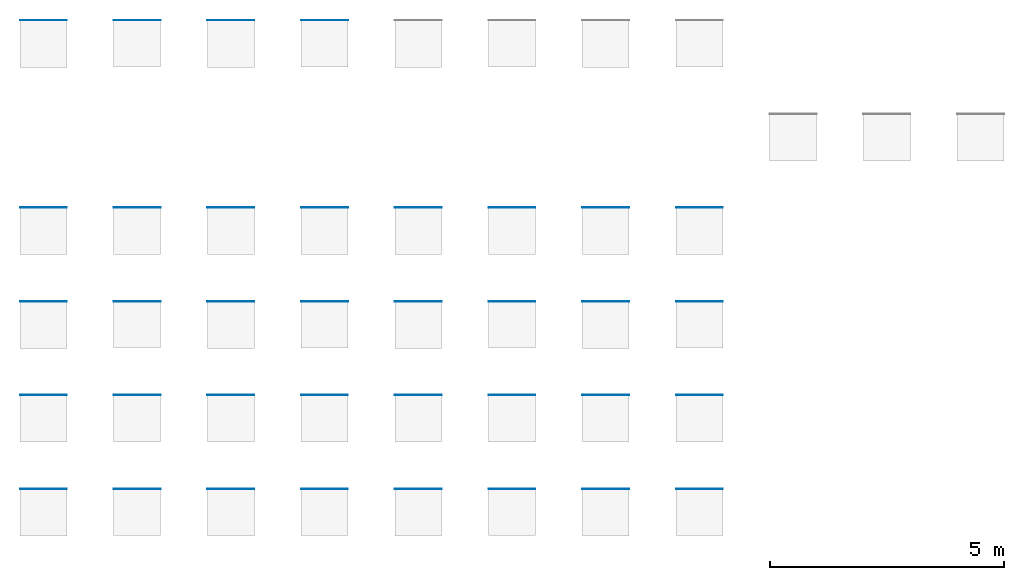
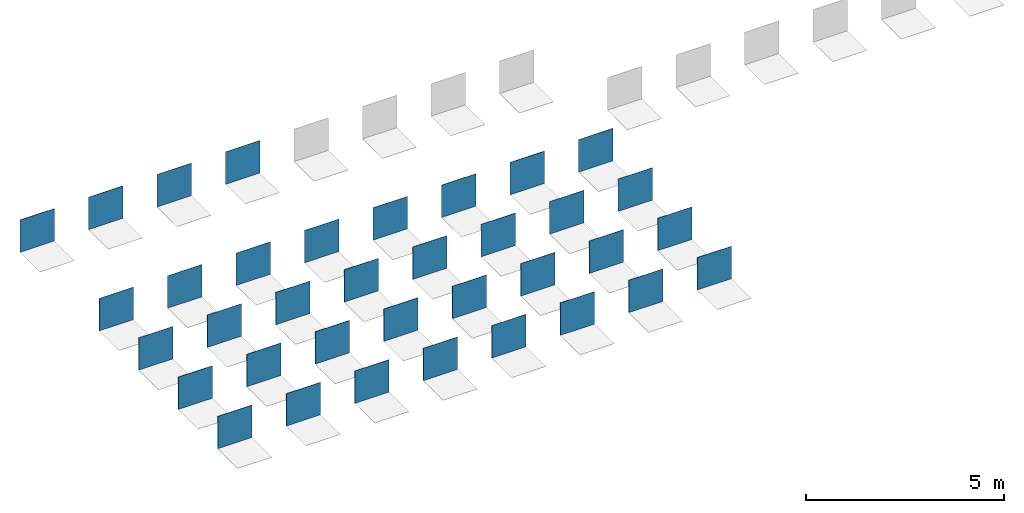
# One storey, part 1 of 4: 36 walls.
"""IFC2X3 building model written with IfcOpenShell, lengths in millimetres."""

from ifc_helpers import new_model, entity, si_unit, converted_unit, derived_unit, direction, frame, frame_2d, origin, place, context, subcontext, project, spatial, rectangle, extrude, material, layer, layer_set, layer_usage, type_object, element, save


model = new_model("IFC2X3")

# Units and contexts
model_context = context("Model", 3, precision=0.01, world=origin(), true_north=direction((6.12303176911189e-17, 1.0)))
body_context = subcontext(model_context, "Body", "Model", "MODEL_VIEW")
ifc_project = project(units=[si_unit("LENGTHUNIT", "METRE", prefix="MILLI"), si_unit("AREAUNIT", "SQUARE_METRE"), si_unit("VOLUMEUNIT", "CUBIC_METRE"), converted_unit("PLANEANGLEUNIT", "DEGREE", entity("IfcRatioMeasure", 0.0174532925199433), si_unit("PLANEANGLEUNIT", "RADIAN"), dimensions=[0, 0, 0, 0, 0, 0, 0]), si_unit("MASSUNIT", "GRAM", prefix="KILO"), derived_unit("MASSDENSITYUNIT", [(si_unit("MASSUNIT", "GRAM", prefix="KILO"), 1), (si_unit("LENGTHUNIT", "METRE"), -3)]), derived_unit("MOMENTOFINERTIAUNIT", [(si_unit("LENGTHUNIT", "METRE"), 4)]), si_unit("TIMEUNIT", "SECOND"), si_unit("FREQUENCYUNIT", "HERTZ"), si_unit("THERMODYNAMICTEMPERATUREUNIT", "DEGREE_CELSIUS"), derived_unit("THERMALTRANSMITTANCEUNIT", [(si_unit("MASSUNIT", "GRAM", prefix="KILO"), 1), (si_unit("THERMODYNAMICTEMPERATUREUNIT", "KELVIN"), -1), (si_unit("TIMEUNIT", "SECOND"), -3)]), derived_unit("VOLUMETRICFLOWRATEUNIT", [(si_unit("LENGTHUNIT", "METRE"), 3), (si_unit("TIMEUNIT", "SECOND"), -1)]), si_unit("ELECTRICCURRENTUNIT", "AMPERE"), si_unit("ELECTRICVOLTAGEUNIT", "VOLT"), si_unit("POWERUNIT", "WATT"), si_unit("FORCEUNIT", "NEWTON", prefix="KILO"), si_unit("ILLUMINANCEUNIT", "LUX"), si_unit("LUMINOUSFLUXUNIT", "LUMEN"), si_unit("LUMINOUSINTENSITYUNIT", "CANDELA"), derived_unit("USERDEFINED", [(si_unit("MASSUNIT", "GRAM", prefix="KILO"), -1), (si_unit("LENGTHUNIT", "METRE"), -2), (si_unit("TIMEUNIT", "SECOND"), 3), (si_unit("LUMINOUSFLUXUNIT", "LUMEN"), 1)]), derived_unit("LINEARVELOCITYUNIT", [(si_unit("LENGTHUNIT", "METRE"), 1), (si_unit("TIMEUNIT", "SECOND"), -1)]), si_unit("PRESSUREUNIT", "PASCAL"), derived_unit("USERDEFINED", [(si_unit("LENGTHUNIT", "METRE"), -2), (si_unit("MASSUNIT", "GRAM", prefix="KILO"), 1), (si_unit("TIMEUNIT", "SECOND"), -2)]), derived_unit("LINEARFORCEUNIT", [(si_unit("MASSUNIT", "GRAM", prefix="KILO"), 1), (si_unit("LENGTHUNIT", "METRE"), 1), (si_unit("TIMEUNIT", "SECOND"), -2), (si_unit("LENGTHUNIT", "METRE"), -1)]), derived_unit("PLANARFORCEUNIT", [(si_unit("MASSUNIT", "GRAM", prefix="KILO"), 1), (si_unit("LENGTHUNIT", "METRE"), 1), (si_unit("TIMEUNIT", "SECOND"), -2), (si_unit("LENGTHUNIT", "METRE"), -2)])], contexts=[model_context])

# Site, building, storey
site_placement = place(None, origin())
site = spatial("IfcSite", under=ifc_project, at=site_placement, Name="Default", CompositionType="ELEMENT")
building_placement = place(site_placement, origin())
building = spatial("IfcBuilding", under=site, at=building_placement, CompositionType="ELEMENT")
storey_placement = place(building_placement, origin())
storey = spatial("IfcBuildingStorey", under=building, at=storey_placement, Name="Level 1", CompositionType="ELEMENT", Elevation=0.0)

# Walls
ifc_material_1 = material(Name="REVIGRÉS-LOCUS-BASE-10X10-SILK-ALLOY")
ifc_layer_1 = layer(ifc_material_1, 8.5)
ifc_layer_set_1 = layer_set([ifc_layer_1], Name="Basic Wall:REVIGRÉS-LOCUS-BASE-9.7x9.7-SILK-ALLOY")
ifc_layer_usage_1 = layer_usage(ifc_layer_set_1, "AXIS2", "NEGATIVE", 4.25)
wall_type_1 = type_object("IfcWallType", Name="Basic Wall:REVIGRÉS-LOCUS-BASE-9.7x9.7-SILK-ALLOY", PredefinedType="STANDARD", material=ifc_layer_set_1)
wall_1_placement = place(storey_placement, frame((1948.64271399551, 3108.07579736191, 0.0)))
element("IfcWallStandardCase", 1, at=wall_1_placement, inside=storey, type_object=wall_type_1, material=ifc_layer_usage_1, Name="Basic Wall:REVIGRÉS-LOCUS-BASE-9.7x9.7-SILK-ALLOY", ObjectType="Basic Wall:REVIGRÉS-LOCUS-BASE-9.7x9.7-SILK-ALLOY", context=body_context, shape_type="SweptSolid", body=[
    extrude(rectangle(XDim=1000.0, YDim=8.50000000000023, at=frame_2d((500.0, 0.0), x_axis=(-1.0, 0.0))), origin(), (0.0, 0.0, 1.0), 1000.0),
])
ifc_material_2 = material(Name="REVIGRÉS-LOCUS-BASE-10X10-SILK-BONE")
ifc_layer_2 = layer(ifc_material_2, 8.5)
ifc_layer_set_2 = layer_set([ifc_layer_2], Name="Basic Wall:REVIGRÉS-LOCUS-BASE-9.7x9.7-SILK-BONE")
ifc_layer_usage_2 = layer_usage(ifc_layer_set_2, "AXIS2", "NEGATIVE", 4.25)
wall_type_2 = type_object("IfcWallType", Name="Basic Wall:REVIGRÉS-LOCUS-BASE-9.7x9.7-SILK-BONE", PredefinedType="STANDARD", material=ifc_layer_set_2)
wall_2_placement = place(storey_placement, frame((5948.64271399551, 3108.0757973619, 0.0)))
element("IfcWallStandardCase", 2, at=wall_2_placement, inside=storey, type_object=wall_type_2, material=ifc_layer_usage_2, Name="Basic Wall:REVIGRÉS-LOCUS-BASE-9.7x9.7-SILK-BONE", ObjectType="Basic Wall:REVIGRÉS-LOCUS-BASE-9.7x9.7-SILK-BONE", context=body_context, shape_type="SweptSolid", body=[
    extrude(rectangle(XDim=1000.0, YDim=8.50000000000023, at=frame_2d((500.0, 0.0), x_axis=(-1.0, 0.0))), origin(), (0.0, 0.0, 1.0), 1000.0),
])
ifc_material_3 = material(Name="REVIGRÉS-LOCUS-BASE-10X10-SOFT GRIP-ALLOY")
ifc_layer_3 = layer(ifc_material_3, 8.5)
ifc_layer_set_3 = layer_set([ifc_layer_3], Name="Basic Wall:REVIGRÉS-LOCUS-BASE-9.7x9.7-SOFT GRIP-ALLOY")
ifc_layer_usage_3 = layer_usage(ifc_layer_set_3, "AXIS2", "NEGATIVE", 4.25)
wall_type_3 = type_object("IfcWallType", Name="Basic Wall:REVIGRÉS-LOCUS-BASE-9.7x9.7-SOFT GRIP-ALLOY", PredefinedType="STANDARD", material=ifc_layer_set_3)
wall_3_placement = place(storey_placement, frame((3948.64271399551, 3108.0757973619, 0.0)))
element("IfcWallStandardCase", 3, at=wall_3_placement, inside=storey, type_object=wall_type_3, material=ifc_layer_usage_3, Name="Basic Wall:REVIGRÉS-LOCUS-BASE-9.7x9.7-SOFT GRIP-ALLOY", ObjectType="Basic Wall:REVIGRÉS-LOCUS-BASE-9.7x9.7-SOFT GRIP-ALLOY", context=body_context, shape_type="SweptSolid", body=[
    extrude(rectangle(XDim=1000.0, YDim=8.50000000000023, at=frame_2d((500.0, 0.0), x_axis=(-1.0, 0.0))), origin(), (0.0, 0.0, 1.0), 1000.0),
])
ifc_material_4 = material(Name="REVIGRÉS-LOCUS-BASE-10X10-SOFT GRIP-BONE")
ifc_layer_4 = layer(ifc_material_4, 8.5)
ifc_layer_set_4 = layer_set([ifc_layer_4], Name="Basic Wall:REVIGRÉS-LOCUS-BASE-9.7x9.7-SOFT GRIP-BONE")
ifc_layer_usage_4 = layer_usage(ifc_layer_set_4, "AXIS2", "NEGATIVE", 4.25)
wall_type_4 = type_object("IfcWallType", Name="Basic Wall:REVIGRÉS-LOCUS-BASE-9.7x9.7-SOFT GRIP-BONE", PredefinedType="STANDARD", material=ifc_layer_set_4)
wall_4_placement = place(storey_placement, frame((7948.64271399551, 3108.07579736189, 0.0)))
element("IfcWallStandardCase", 4, at=wall_4_placement, inside=storey, type_object=wall_type_4, material=ifc_layer_usage_4, Name="Basic Wall:REVIGRÉS-LOCUS-BASE-9.7x9.7-SOFT GRIP-BONE", ObjectType="Basic Wall:REVIGRÉS-LOCUS-BASE-9.7x9.7-SOFT GRIP-BONE", context=body_context, shape_type="SweptSolid", body=[
    extrude(rectangle(XDim=1000.0, YDim=8.50000000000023, at=frame_2d((500.0, 0.0), x_axis=(-1.0, 0.0))), origin(), (0.0, 0.0, 1.0), 1000.0),
])
ifc_material_5 = material(Name="REVIGRÉS-LOCUS-BASE-30x60-SILK-ALLOY")
ifc_layer_5 = layer(ifc_material_5, 8.5)
ifc_layer_set_5 = layer_set([ifc_layer_5], Name="Basic Wall:REVIGRÉS-LOCUS-BASE-29.5x59.2-SILK-ALLOY")
ifc_layer_usage_5 = layer_usage(ifc_layer_set_5, "AXIS2", "NEGATIVE", 4.25)
wall_type_5 = type_object("IfcWallType", Name="Basic Wall:REVIGRÉS-LOCUS-BASE-29.5x59.2-SILK-ALLOY", PredefinedType="STANDARD", material=ifc_layer_set_5)
wall_5_placement = place(storey_placement, frame((1948.64271399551, -891.924202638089, 0.0)))
element("IfcWallStandardCase", 5, at=wall_5_placement, inside=storey, type_object=wall_type_5, material=ifc_layer_usage_5, Name="Basic Wall:REVIGRÉS-LOCUS-BASE-29.5x59.2-SILK-ALLOY", ObjectType="Basic Wall:REVIGRÉS-LOCUS-BASE-29.5x59.2-SILK-ALLOY", context=body_context, shape_type="SweptSolid", body=[
    extrude(rectangle(XDim=1000.0, YDim=8.49999999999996, at=frame_2d((500.0, 0.0), x_axis=(-1.0, 0.0))), origin(), (0.0, 0.0, 1.0), 1000.0),
])
ifc_material_6 = material(Name="REVIGRÉS-LOCUS-BASE-30x60-SOFT GRIP-ALLOY")
ifc_layer_6 = layer(ifc_material_6, 8.5)
ifc_layer_set_6 = layer_set([ifc_layer_6], Name="Basic Wall:REVIGRÉS-LOCUS-BASE-29.5x59.2-SOFT GRIP-ALLOY")
ifc_layer_usage_6 = layer_usage(ifc_layer_set_6, "AXIS2", "NEGATIVE", 4.25)
wall_type_6 = type_object("IfcWallType", Name="Basic Wall:REVIGRÉS-LOCUS-BASE-29.5x59.2-SOFT GRIP-ALLOY", PredefinedType="STANDARD", material=ifc_layer_set_6)
wall_6_placement = place(storey_placement, frame((3948.64271399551, -891.924202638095, 0.0)))
element("IfcWallStandardCase", 6, at=wall_6_placement, inside=storey, type_object=wall_type_6, material=ifc_layer_usage_6, Name="Basic Wall:REVIGRÉS-LOCUS-BASE-29.5x59.2-SOFT GRIP-ALLOY", ObjectType="Basic Wall:REVIGRÉS-LOCUS-BASE-29.5x59.2-SOFT GRIP-ALLOY", context=body_context, shape_type="SweptSolid", body=[
    extrude(rectangle(XDim=1000.0, YDim=8.49999999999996, at=frame_2d((500.0, 0.0), x_axis=(-1.0, 0.0))), origin(), (0.0, 0.0, 1.0), 1000.0),
])
ifc_material_7 = material(Name="REVIGRÉS-LOCUS-BASE-60x60-SILK-ALLOY")
ifc_layer_7 = layer(ifc_material_7, 8.5)
ifc_layer_set_7 = layer_set([ifc_layer_7], Name="Basic Wall:REVIGRÉS-LOCUS-BASE-59.2x59.2-SILK-ALLOY")
ifc_layer_usage_7 = layer_usage(ifc_layer_set_7, "AXIS2", "NEGATIVE", 4.25)
wall_type_7 = type_object("IfcWallType", Name="Basic Wall:REVIGRÉS-LOCUS-BASE-59.2x59.2-SILK-ALLOY", PredefinedType="STANDARD", material=ifc_layer_set_7)
wall_7_placement = place(storey_placement, frame((1948.6427139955, -2891.92420263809, 0.0)))
element("IfcWallStandardCase", 7, at=wall_7_placement, inside=storey, type_object=wall_type_7, material=ifc_layer_usage_7, Name="Basic Wall:REVIGRÉS-LOCUS-BASE-59.2x59.2-SILK-ALLOY", ObjectType="Basic Wall:REVIGRÉS-LOCUS-BASE-59.2x59.2-SILK-ALLOY", context=body_context, shape_type="SweptSolid", body=[
    extrude(rectangle(XDim=1000.0, YDim=8.50000000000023, at=frame_2d((500.0, 0.0), x_axis=(-1.0, 0.0))), origin(), (0.0, 0.0, 1.0), 1000.0),
])
ifc_material_8 = material(Name="REVIGRÉS-LOCUS-BASE-60x60-SOFT GRIP-ALLOY")
ifc_layer_8 = layer(ifc_material_8, 8.5)
ifc_layer_set_8 = layer_set([ifc_layer_8], Name="Basic Wall:REVIGRÉS-LOCUS-BASE-59.2x59.2-SOFT GRIP-ALLOY")
ifc_layer_usage_8 = layer_usage(ifc_layer_set_8, "AXIS2", "NEGATIVE", 4.25)
wall_type_8 = type_object("IfcWallType", Name="Basic Wall:REVIGRÉS-LOCUS-BASE-59.2x59.2-SOFT GRIP-ALLOY", PredefinedType="STANDARD", material=ifc_layer_set_8)
wall_8_placement = place(storey_placement, frame((3948.6427139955, -2891.9242026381, 0.0)))
element("IfcWallStandardCase", 8, at=wall_8_placement, inside=storey, type_object=wall_type_8, material=ifc_layer_usage_8, Name="Basic Wall:REVIGRÉS-LOCUS-BASE-59.2x59.2-SOFT GRIP-ALLOY", ObjectType="Basic Wall:REVIGRÉS-LOCUS-BASE-59.2x59.2-SOFT GRIP-ALLOY", context=body_context, shape_type="SweptSolid", body=[
    extrude(rectangle(XDim=999.999999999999, YDim=8.50000000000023, at=frame_2d((499.999999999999, 0.0), x_axis=(-1.0, 0.0))), origin(), (0.0, 0.0, 1.0), 1000.0),
])
ifc_material_9 = material(Name="REVIGRÉS-LOCUS-BASE-45X90-SILK-ALLOY")
ifc_layer_9 = layer(ifc_material_9, 10.5)
ifc_layer_set_9 = layer_set([ifc_layer_9], Name="Basic Wall:REVIGRÉS-LOCUS-BASE-44.35x88.9-SILK-ALLOY")
ifc_layer_usage_9 = layer_usage(ifc_layer_set_9, "AXIS2", "NEGATIVE", 5.25)
wall_type_9 = type_object("IfcWallType", Name="Basic Wall:REVIGRÉS-LOCUS-BASE-44.35x88.9-SILK-ALLOY", PredefinedType="STANDARD", material=ifc_layer_set_9)
wall_9_placement = place(storey_placement, frame((1948.6427139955, -4891.92420263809, 0.0)))
element("IfcWallStandardCase", 9, at=wall_9_placement, inside=storey, type_object=wall_type_9, material=ifc_layer_usage_9, Name="Basic Wall:REVIGRÉS-LOCUS-BASE-44.35x88.9-SILK-ALLOY", ObjectType="Basic Wall:REVIGRÉS-LOCUS-BASE-44.35x88.9-SILK-ALLOY", context=body_context, shape_type="SweptSolid", body=[
    extrude(rectangle(XDim=1000.0, YDim=10.4999999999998, at=frame_2d((500.0, 0.0), x_axis=(-1.0, 0.0))), origin(), (0.0, 0.0, 1.0), 1000.0),
])
ifc_material_10 = material(Name="REVIGRÉS-LOCUS-BASE-45X90-SOFT GRIP-ALLOY")
ifc_layer_10 = layer(ifc_material_10, 10.5)
ifc_layer_set_10 = layer_set([ifc_layer_10], Name="Basic Wall:REVIGRÉS-LOCUS-BASE-44.35x88.9-SOFT GRIP-ALLOY")
ifc_layer_usage_10 = layer_usage(ifc_layer_set_10, "AXIS2", "NEGATIVE", 5.25)
wall_type_10 = type_object("IfcWallType", Name="Basic Wall:REVIGRÉS-LOCUS-BASE-44.35x88.9-SOFT GRIP-ALLOY", PredefinedType="STANDARD", material=ifc_layer_set_10)
wall_10_placement = place(storey_placement, frame((3948.6427139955, -4891.9242026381, 0.0)))
element("IfcWallStandardCase", 10, at=wall_10_placement, inside=storey, type_object=wall_type_10, material=ifc_layer_usage_10, Name="Basic Wall:REVIGRÉS-LOCUS-BASE-44.35x88.9-SOFT GRIP-ALLOY", ObjectType="Basic Wall:REVIGRÉS-LOCUS-BASE-44.35x88.9-SOFT GRIP-ALLOY", context=body_context, shape_type="SweptSolid", body=[
    extrude(rectangle(XDim=1000.0, YDim=10.4999999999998, at=frame_2d((500.0, 0.0), x_axis=(-1.0, 0.0))), origin(), (0.0, 0.0, 1.0), 1000.0),
])
ifc_material_11 = material(Name="REVIGRÉS-LOCUS-BASE-30x60-SILK-BONE")
ifc_layer_11 = layer(ifc_material_11, 8.5)
ifc_layer_set_11 = layer_set([ifc_layer_11], Name="Basic Wall:REVIGRÉS-LOCUS-BASE-29.5x59.2-SILK-BONE")
ifc_layer_usage_11 = layer_usage(ifc_layer_set_11, "AXIS2", "NEGATIVE", 4.25)
wall_type_11 = type_object("IfcWallType", Name="Basic Wall:REVIGRÉS-LOCUS-BASE-29.5x59.2-SILK-BONE", PredefinedType="STANDARD", material=ifc_layer_set_11)
wall_11_placement = place(storey_placement, frame((5948.6427139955, -891.924202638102, 0.0)))
element("IfcWallStandardCase", 11, at=wall_11_placement, inside=storey, type_object=wall_type_11, material=ifc_layer_usage_11, Name="Basic Wall:REVIGRÉS-LOCUS-BASE-29.5x59.2-SILK-BONE", ObjectType="Basic Wall:REVIGRÉS-LOCUS-BASE-29.5x59.2-SILK-BONE", context=body_context, shape_type="SweptSolid", body=[
    extrude(rectangle(XDim=1000.0, YDim=8.49999999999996, at=frame_2d((500.0, 0.0), x_axis=(-1.0, 0.0))), origin(), (0.0, 0.0, 1.0), 1000.0),
])
ifc_material_12 = material(Name="REVIGRÉS-LOCUS-BASE-30x60-SOFT GRIP-BONE")
ifc_layer_12 = layer(ifc_material_12, 8.5)
ifc_layer_set_12 = layer_set([ifc_layer_12], Name="Basic Wall:REVIGRÉS-LOCUS-BASE-29.5x59.2-SOFT GRIP-BONE")
ifc_layer_usage_12 = layer_usage(ifc_layer_set_12, "AXIS2", "NEGATIVE", 4.25)
wall_type_12 = type_object("IfcWallType", Name="Basic Wall:REVIGRÉS-LOCUS-BASE-29.5x59.2-SOFT GRIP-BONE", PredefinedType="STANDARD", material=ifc_layer_set_12)
wall_12_placement = place(storey_placement, frame((7948.6427139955, -891.924202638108, 0.0)))
element("IfcWallStandardCase", 12, at=wall_12_placement, inside=storey, type_object=wall_type_12, material=ifc_layer_usage_12, Name="Basic Wall:REVIGRÉS-LOCUS-BASE-29.5x59.2-SOFT GRIP-BONE", ObjectType="Basic Wall:REVIGRÉS-LOCUS-BASE-29.5x59.2-SOFT GRIP-BONE", context=body_context, shape_type="SweptSolid", body=[
    extrude(rectangle(XDim=1000.0, YDim=8.49999999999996, at=frame_2d((500.0, 0.0), x_axis=(-1.0, 0.0))), origin(), (0.0, 0.0, 1.0), 1000.0),
])
ifc_material_13 = material(Name="REVIGRÉS-LOCUS-BASE-60x60-SILK-BONE")
ifc_layer_13 = layer(ifc_material_13, 8.5)
ifc_layer_set_13 = layer_set([ifc_layer_13], Name="Basic Wall:REVIGRÉS-LOCUS-BASE-59.2x59.2-SILK-BONE")
ifc_layer_usage_13 = layer_usage(ifc_layer_set_13, "AXIS2", "NEGATIVE", 4.25)
wall_type_13 = type_object("IfcWallType", Name="Basic Wall:REVIGRÉS-LOCUS-BASE-59.2x59.2-SILK-BONE", PredefinedType="STANDARD", material=ifc_layer_set_13)
wall_13_placement = place(storey_placement, frame((5948.6427139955, -2891.9242026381, 0.0)))
element("IfcWallStandardCase", 13, at=wall_13_placement, inside=storey, type_object=wall_type_13, material=ifc_layer_usage_13, Name="Basic Wall:REVIGRÉS-LOCUS-BASE-59.2x59.2-SILK-BONE", ObjectType="Basic Wall:REVIGRÉS-LOCUS-BASE-59.2x59.2-SILK-BONE", context=body_context, shape_type="SweptSolid", body=[
    extrude(rectangle(XDim=1000.0, YDim=8.50000000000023, at=frame_2d((500.0, 0.0), x_axis=(-1.0, 0.0))), origin(), (0.0, 0.0, 1.0), 1000.0),
])
ifc_material_14 = material(Name="REVIGRÉS-LOCUS-BASE-60x60-SOFT GRIP-BONE")
ifc_layer_14 = layer(ifc_material_14, 8.5)
ifc_layer_set_14 = layer_set([ifc_layer_14], Name="Basic Wall:REVIGRÉS-LOCUS-BASE-59.2x59.2-SOFT GRIP-BONE")
ifc_layer_usage_14 = layer_usage(ifc_layer_set_14, "AXIS2", "NEGATIVE", 4.25)
wall_type_14 = type_object("IfcWallType", Name="Basic Wall:REVIGRÉS-LOCUS-BASE-59.2x59.2-SOFT GRIP-BONE", PredefinedType="STANDARD", material=ifc_layer_set_14)
wall_14_placement = place(storey_placement, frame((7948.6427139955, -2891.92420263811, 0.0)))
element("IfcWallStandardCase", 14, at=wall_14_placement, inside=storey, type_object=wall_type_14, material=ifc_layer_usage_14, Name="Basic Wall:REVIGRÉS-LOCUS-BASE-59.2x59.2-SOFT GRIP-BONE", ObjectType="Basic Wall:REVIGRÉS-LOCUS-BASE-59.2x59.2-SOFT GRIP-BONE", context=body_context, shape_type="SweptSolid", body=[
    extrude(rectangle(XDim=1000.0, YDim=8.50000000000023, at=frame_2d((500.0, 0.0), x_axis=(-1.0, 0.0))), origin(), (0.0, 0.0, 1.0), 1000.0),
])
ifc_material_15 = material(Name="REVIGRÉS-LOCUS-BASE-45X90-SILK-BONE")
ifc_layer_15 = layer(ifc_material_15, 10.5)
ifc_layer_set_15 = layer_set([ifc_layer_15], Name="Basic Wall:REVIGRÉS-LOCUS-BASE-44.35x88.9-SILK-BONE")
ifc_layer_usage_15 = layer_usage(ifc_layer_set_15, "AXIS2", "NEGATIVE", 5.25)
wall_type_15 = type_object("IfcWallType", Name="Basic Wall:REVIGRÉS-LOCUS-BASE-44.35x88.9-SILK-BONE", PredefinedType="STANDARD", material=ifc_layer_set_15)
wall_15_placement = place(storey_placement, frame((5948.64271399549, -4891.9242026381, 0.0)))
element("IfcWallStandardCase", 15, at=wall_15_placement, inside=storey, type_object=wall_type_15, material=ifc_layer_usage_15, Name="Basic Wall:REVIGRÉS-LOCUS-BASE-44.35x88.9-SILK-BONE", ObjectType="Basic Wall:REVIGRÉS-LOCUS-BASE-44.35x88.9-SILK-BONE", context=body_context, shape_type="SweptSolid", body=[
    extrude(rectangle(XDim=1000.0, YDim=10.4999999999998, at=frame_2d((500.0, 0.0), x_axis=(-1.0, 0.0))), origin(), (0.0, 0.0, 1.0), 1000.0),
])
ifc_material_16 = material(Name="REVIGRÉS-LOCUS-BASE-45X90-SOFT GRIP-BONE")
ifc_layer_16 = layer(ifc_material_16, 10.5)
ifc_layer_set_16 = layer_set([ifc_layer_16], Name="Basic Wall:REVIGRÉS-LOCUS-BASE-44.35x88.9-SOFT GRIP-BONE")
ifc_layer_usage_16 = layer_usage(ifc_layer_set_16, "AXIS2", "NEGATIVE", 5.25)
wall_type_16 = type_object("IfcWallType", Name="Basic Wall:REVIGRÉS-LOCUS-BASE-44.35x88.9-SOFT GRIP-BONE", PredefinedType="STANDARD", material=ifc_layer_set_16)
wall_16_placement = place(storey_placement, frame((7948.64271399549, -4891.92420263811, 0.0)))
element("IfcWallStandardCase", 16, at=wall_16_placement, inside=storey, type_object=wall_type_16, material=ifc_layer_usage_16, Name="Basic Wall:REVIGRÉS-LOCUS-BASE-44.35x88.9-SOFT GRIP-BONE", ObjectType="Basic Wall:REVIGRÉS-LOCUS-BASE-44.35x88.9-SOFT GRIP-BONE", context=body_context, shape_type="SweptSolid", body=[
    extrude(rectangle(XDim=1000.0, YDim=10.4999999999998, at=frame_2d((500.0, 0.0), x_axis=(-1.0, 0.0))), origin(), (0.0, 0.0, 1.0), 1000.0),
])
ifc_material_17 = material(Name="REVIGRÉS-LOCUS-BASE-30x60-SILK-GRIS")
ifc_layer_17 = layer(ifc_material_17, 8.5)
ifc_layer_set_17 = layer_set([ifc_layer_17], Name="Basic Wall:REVIGRÉS-LOCUS-BASE-29.5x59.2-SILK-GRIS")
ifc_layer_usage_17 = layer_usage(ifc_layer_set_17, "AXIS2", "NEGATIVE", 4.25)
wall_type_17 = type_object("IfcWallType", Name="Basic Wall:REVIGRÉS-LOCUS-BASE-29.5x59.2-SILK-GRIS", PredefinedType="STANDARD", material=ifc_layer_set_17)
wall_17_placement = place(storey_placement, frame((9948.64271399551, -891.924202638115, 0.0)))
element("IfcWallStandardCase", 17, at=wall_17_placement, inside=storey, type_object=wall_type_17, material=ifc_layer_usage_17, Name="Basic Wall:REVIGRÉS-LOCUS-BASE-29.5x59.2-SILK-GRIS", ObjectType="Basic Wall:REVIGRÉS-LOCUS-BASE-29.5x59.2-SILK-GRIS", context=body_context, shape_type="SweptSolid", body=[
    extrude(rectangle(XDim=999.999999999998, YDim=8.49999999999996, at=frame_2d((499.999999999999, 0.0), x_axis=(-1.0, 0.0))), origin(), (0.0, 0.0, 1.0), 1000.0),
])
ifc_material_18 = material(Name="REVIGRÉS-LOCUS-BASE-30x60-SOFT GRIP-GRIS")
ifc_layer_18 = layer(ifc_material_18, 8.5)
ifc_layer_set_18 = layer_set([ifc_layer_18], Name="Basic Wall:REVIGRÉS-LOCUS-BASE-29.5x59.2-SOFT GRIP-GRIS")
ifc_layer_usage_18 = layer_usage(ifc_layer_set_18, "AXIS2", "NEGATIVE", 4.25)
wall_type_18 = type_object("IfcWallType", Name="Basic Wall:REVIGRÉS-LOCUS-BASE-29.5x59.2-SOFT GRIP-GRIS", PredefinedType="STANDARD", material=ifc_layer_set_18)
wall_18_placement = place(storey_placement, frame((11948.6427139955, -891.924202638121, 0.0)))
element("IfcWallStandardCase", 18, at=wall_18_placement, inside=storey, type_object=wall_type_18, material=ifc_layer_usage_18, Name="Basic Wall:REVIGRÉS-LOCUS-BASE-29.5x59.2-SOFT GRIP-GRIS", ObjectType="Basic Wall:REVIGRÉS-LOCUS-BASE-29.5x59.2-SOFT GRIP-GRIS", context=body_context, shape_type="SweptSolid", body=[
    extrude(rectangle(XDim=999.999999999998, YDim=8.49999999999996, at=frame_2d((499.999999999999, 0.0), x_axis=(-1.0, 0.0))), origin(), (0.0, 0.0, 1.0), 1000.0),
])
ifc_material_19 = material(Name="REVIGRÉS-LOCUS-BASE-60x60-SILK-GRIS")
ifc_layer_19 = layer(ifc_material_19, 8.5)
ifc_layer_set_19 = layer_set([ifc_layer_19], Name="Basic Wall:REVIGRÉS-LOCUS-BASE-59.2x59.2-SILK-GRIS")
ifc_layer_usage_19 = layer_usage(ifc_layer_set_19, "AXIS2", "NEGATIVE", 4.25)
wall_type_19 = type_object("IfcWallType", Name="Basic Wall:REVIGRÉS-LOCUS-BASE-59.2x59.2-SILK-GRIS", PredefinedType="STANDARD", material=ifc_layer_set_19)
wall_19_placement = place(storey_placement, frame((9948.6427139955, -2891.92420263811, 0.0)))
element("IfcWallStandardCase", 19, at=wall_19_placement, inside=storey, type_object=wall_type_19, material=ifc_layer_usage_19, Name="Basic Wall:REVIGRÉS-LOCUS-BASE-59.2x59.2-SILK-GRIS", ObjectType="Basic Wall:REVIGRÉS-LOCUS-BASE-59.2x59.2-SILK-GRIS", context=body_context, shape_type="SweptSolid", body=[
    extrude(rectangle(XDim=999.999999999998, YDim=8.50000000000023, at=frame_2d((499.999999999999, 0.0), x_axis=(-1.0, 0.0))), origin(), (0.0, 0.0, 1.0), 1000.0),
])
ifc_material_20 = material(Name="REVIGRÉS-LOCUS-BASE-60x60-SOFT GRIP-GRIS")
ifc_layer_20 = layer(ifc_material_20, 8.5)
ifc_layer_set_20 = layer_set([ifc_layer_20], Name="Basic Wall:REVIGRÉS-LOCUS-BASE-59.2x59.2-SOFT GRIP-GRIS")
ifc_layer_usage_20 = layer_usage(ifc_layer_set_20, "AXIS2", "NEGATIVE", 4.25)
wall_type_20 = type_object("IfcWallType", Name="Basic Wall:REVIGRÉS-LOCUS-BASE-59.2x59.2-SOFT GRIP-GRIS", PredefinedType="STANDARD", material=ifc_layer_set_20)
wall_20_placement = place(storey_placement, frame((11948.6427139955, -2891.92420263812, 0.0)))
element("IfcWallStandardCase", 20, at=wall_20_placement, inside=storey, type_object=wall_type_20, material=ifc_layer_usage_20, Name="Basic Wall:REVIGRÉS-LOCUS-BASE-59.2x59.2-SOFT GRIP-GRIS", ObjectType="Basic Wall:REVIGRÉS-LOCUS-BASE-59.2x59.2-SOFT GRIP-GRIS", context=body_context, shape_type="SweptSolid", body=[
    extrude(rectangle(XDim=999.999999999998, YDim=8.50000000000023, at=frame_2d((499.999999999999, 0.0), x_axis=(-1.0, 0.0))), origin(), (0.0, 0.0, 1.0), 1000.0),
])
ifc_material_21 = material(Name="REVIGRÉS-LOCUS-BASE-45X90-SILK-GRIS")
ifc_layer_21 = layer(ifc_material_21, 10.5)
ifc_layer_set_21 = layer_set([ifc_layer_21], Name="Basic Wall:REVIGRÉS-LOCUS-BASE-44.35x88.9-SILK-GRIS")
ifc_layer_usage_21 = layer_usage(ifc_layer_set_21, "AXIS2", "NEGATIVE", 5.25)
wall_type_21 = type_object("IfcWallType", Name="Basic Wall:REVIGRÉS-LOCUS-BASE-44.35x88.9-SILK-GRIS", PredefinedType="STANDARD", material=ifc_layer_set_21)
wall_21_placement = place(storey_placement, frame((9948.6427139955, -4891.92420263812, 0.0)))
element("IfcWallStandardCase", 21, at=wall_21_placement, inside=storey, type_object=wall_type_21, material=ifc_layer_usage_21, Name="Basic Wall:REVIGRÉS-LOCUS-BASE-44.35x88.9-SILK-GRIS", ObjectType="Basic Wall:REVIGRÉS-LOCUS-BASE-44.35x88.9-SILK-GRIS", context=body_context, shape_type="SweptSolid", body=[
    extrude(rectangle(XDim=999.999999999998, YDim=10.4999999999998, at=frame_2d((499.999999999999, 0.0), x_axis=(-1.0, 0.0))), origin(), (0.0, 0.0, 1.0), 1000.0),
])
ifc_material_22 = material(Name="REVIGRÉS-LOCUS-BASE-45X90-SOFT GRIP-GRIS")
ifc_layer_22 = layer(ifc_material_22, 10.5)
ifc_layer_set_22 = layer_set([ifc_layer_22], Name="Basic Wall:REVIGRÉS-LOCUS-BASE-44.35x88.9-SOFT GRIP-GRIS")
ifc_layer_usage_22 = layer_usage(ifc_layer_set_22, "AXIS2", "NEGATIVE", 5.25)
wall_type_22 = type_object("IfcWallType", Name="Basic Wall:REVIGRÉS-LOCUS-BASE-44.35x88.9-SOFT GRIP-GRIS", PredefinedType="STANDARD", material=ifc_layer_set_22)
wall_22_placement = place(storey_placement, frame((11948.6427139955, -4891.92420263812, 0.0)))
element("IfcWallStandardCase", 22, at=wall_22_placement, inside=storey, type_object=wall_type_22, material=ifc_layer_usage_22, Name="Basic Wall:REVIGRÉS-LOCUS-BASE-44.35x88.9-SOFT GRIP-GRIS", ObjectType="Basic Wall:REVIGRÉS-LOCUS-BASE-44.35x88.9-SOFT GRIP-GRIS", context=body_context, shape_type="SweptSolid", body=[
    extrude(rectangle(XDim=999.999999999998, YDim=10.4999999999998, at=frame_2d((499.999999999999, 0.0), x_axis=(-1.0, 0.0))), origin(), (0.0, 0.0, 1.0), 1000.0),
])
ifc_material_23 = material(Name="REVIGRÉS-LOCUS-BASE-30x60-SILK-SMOG")
ifc_layer_23 = layer(ifc_material_23, 8.5)
ifc_layer_set_23 = layer_set([ifc_layer_23], Name="Basic Wall:REVIGRÉS-LOCUS-BASE-29.5x59.2-SILK-SMOG")
ifc_layer_usage_23 = layer_usage(ifc_layer_set_23, "AXIS2", "NEGATIVE", 4.25)
wall_type_23 = type_object("IfcWallType", Name="Basic Wall:REVIGRÉS-LOCUS-BASE-29.5x59.2-SILK-SMOG", PredefinedType="STANDARD", material=ifc_layer_set_23)
wall_23_placement = place(storey_placement, frame((13948.6427139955, -891.924202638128, 0.0)))
element("IfcWallStandardCase", 23, at=wall_23_placement, inside=storey, type_object=wall_type_23, material=ifc_layer_usage_23, Name="Basic Wall:REVIGRÉS-LOCUS-BASE-29.5x59.2-SILK-SMOG", ObjectType="Basic Wall:REVIGRÉS-LOCUS-BASE-29.5x59.2-SILK-SMOG", context=body_context, shape_type="SweptSolid", body=[
    extrude(rectangle(XDim=999.999999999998, YDim=8.49999999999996, at=frame_2d((499.999999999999, 0.0), x_axis=(-1.0, 0.0))), origin(), (0.0, 0.0, 1.0), 1000.0),
])
ifc_material_24 = material(Name="REVIGRÉS-LOCUS-BASE-30x60-SOFT GRIP-SMOG")
ifc_layer_24 = layer(ifc_material_24, 8.5)
ifc_layer_set_24 = layer_set([ifc_layer_24], Name="Basic Wall:REVIGRÉS-LOCUS-BASE-29.5x59.2-SOFT GRIP-SMOG")
ifc_layer_usage_24 = layer_usage(ifc_layer_set_24, "AXIS2", "NEGATIVE", 4.25)
wall_type_24 = type_object("IfcWallType", Name="Basic Wall:REVIGRÉS-LOCUS-BASE-29.5x59.2-SOFT GRIP-SMOG", PredefinedType="STANDARD", material=ifc_layer_set_24)
wall_24_placement = place(storey_placement, frame((15948.6427139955, -891.924202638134, 0.0)))
element("IfcWallStandardCase", 24, at=wall_24_placement, inside=storey, type_object=wall_type_24, material=ifc_layer_usage_24, Name="Basic Wall:REVIGRÉS-LOCUS-BASE-29.5x59.2-SOFT GRIP-SMOG", ObjectType="Basic Wall:REVIGRÉS-LOCUS-BASE-29.5x59.2-SOFT GRIP-SMOG", context=body_context, shape_type="SweptSolid", body=[
    extrude(rectangle(XDim=999.999999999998, YDim=8.49999999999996, at=frame_2d((499.999999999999, 0.0), x_axis=(-1.0, 0.0))), origin(), (0.0, 0.0, 1.0), 1000.0),
])
ifc_material_25 = material(Name="REVIGRÉS-LOCUS-BASE-60x60-SILK-SMOG")
ifc_layer_25 = layer(ifc_material_25, 8.5)
ifc_layer_set_25 = layer_set([ifc_layer_25], Name="Basic Wall:REVIGRÉS-LOCUS-BASE-59.2x59.2-SILK-SMOG")
ifc_layer_usage_25 = layer_usage(ifc_layer_set_25, "AXIS2", "NEGATIVE", 4.25)
wall_type_25 = type_object("IfcWallType", Name="Basic Wall:REVIGRÉS-LOCUS-BASE-59.2x59.2-SILK-SMOG", PredefinedType="STANDARD", material=ifc_layer_set_25)
wall_25_placement = place(storey_placement, frame((13948.6427139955, -2891.92420263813, 0.0)))
element("IfcWallStandardCase", 25, at=wall_25_placement, inside=storey, type_object=wall_type_25, material=ifc_layer_usage_25, Name="Basic Wall:REVIGRÉS-LOCUS-BASE-59.2x59.2-SILK-SMOG", ObjectType="Basic Wall:REVIGRÉS-LOCUS-BASE-59.2x59.2-SILK-SMOG", context=body_context, shape_type="SweptSolid", body=[
    extrude(rectangle(XDim=999.999999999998, YDim=8.50000000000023, at=frame_2d((499.999999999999, 0.0), x_axis=(-1.0, 0.0))), origin(), (0.0, 0.0, 1.0), 1000.0),
])
ifc_material_26 = material(Name="REVIGRÉS-LOCUS-BASE-60x60-SOFT GRIP-SMOG")
ifc_layer_26 = layer(ifc_material_26, 8.5)
ifc_layer_set_26 = layer_set([ifc_layer_26], Name="Basic Wall:REVIGRÉS-LOCUS-BASE-59.2x59.2-SOFT GRIP-SMOG")
ifc_layer_usage_26 = layer_usage(ifc_layer_set_26, "AXIS2", "NEGATIVE", 4.25)
wall_type_26 = type_object("IfcWallType", Name="Basic Wall:REVIGRÉS-LOCUS-BASE-59.2x59.2-SOFT GRIP-SMOG", PredefinedType="STANDARD", material=ifc_layer_set_26)
wall_26_placement = place(storey_placement, frame((15948.6427139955, -2891.92420263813, 0.0)))
element("IfcWallStandardCase", 26, at=wall_26_placement, inside=storey, type_object=wall_type_26, material=ifc_layer_usage_26, Name="Basic Wall:REVIGRÉS-LOCUS-BASE-59.2x59.2-SOFT GRIP-SMOG", ObjectType="Basic Wall:REVIGRÉS-LOCUS-BASE-59.2x59.2-SOFT GRIP-SMOG", context=body_context, shape_type="SweptSolid", body=[
    extrude(rectangle(XDim=999.999999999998, YDim=8.50000000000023, at=frame_2d((499.999999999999, 0.0), x_axis=(-1.0, 0.0))), origin(), (0.0, 0.0, 1.0), 1000.0),
])
ifc_material_27 = material(Name="REVIGRÉS-LOCUS-BASE-45X90-SILK-SMOG")
ifc_layer_27 = layer(ifc_material_27, 10.5)
ifc_layer_set_27 = layer_set([ifc_layer_27], Name="Basic Wall:REVIGRÉS-LOCUS-BASE-44.35x88.9-SILK-SMOG")
ifc_layer_usage_27 = layer_usage(ifc_layer_set_27, "AXIS2", "NEGATIVE", 5.25)
wall_type_27 = type_object("IfcWallType", Name="Basic Wall:REVIGRÉS-LOCUS-BASE-44.35x88.9-SILK-SMOG", PredefinedType="STANDARD", material=ifc_layer_set_27)
wall_27_placement = place(storey_placement, frame((13948.6427139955, -4891.92420263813, 0.0)))
element("IfcWallStandardCase", 27, at=wall_27_placement, inside=storey, type_object=wall_type_27, material=ifc_layer_usage_27, Name="Basic Wall:REVIGRÉS-LOCUS-BASE-44.35x88.9-SILK-SMOG", ObjectType="Basic Wall:REVIGRÉS-LOCUS-BASE-44.35x88.9-SILK-SMOG", context=body_context, shape_type="SweptSolid", body=[
    extrude(rectangle(XDim=999.999999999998, YDim=10.4999999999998, at=frame_2d((499.999999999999, 0.0), x_axis=(-1.0, 0.0))), origin(), (0.0, 0.0, 1.0), 1000.0),
])
ifc_material_28 = material(Name="REVIGRÉS-LOCUS-BASE-45X90-SOFT GRIP-SMOG")
ifc_layer_28 = layer(ifc_material_28, 10.5)
ifc_layer_set_28 = layer_set([ifc_layer_28], Name="Basic Wall:REVIGRÉS-LOCUS-BASE-44.35x88.9-SOFT GRIP-SMOG")
ifc_layer_usage_28 = layer_usage(ifc_layer_set_28, "AXIS2", "NEGATIVE", 5.25)
wall_type_28 = type_object("IfcWallType", Name="Basic Wall:REVIGRÉS-LOCUS-BASE-44.35x88.9-SOFT GRIP-SMOG", PredefinedType="STANDARD", material=ifc_layer_set_28)
wall_28_placement = place(storey_placement, frame((15948.6427139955, -4891.92420263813, 0.0)))
element("IfcWallStandardCase", 28, at=wall_28_placement, inside=storey, type_object=wall_type_28, material=ifc_layer_usage_28, Name="Basic Wall:REVIGRÉS-LOCUS-BASE-44.35x88.9-SOFT GRIP-SMOG", ObjectType="Basic Wall:REVIGRÉS-LOCUS-BASE-44.35x88.9-SOFT GRIP-SMOG", context=body_context, shape_type="SweptSolid", body=[
    extrude(rectangle(XDim=999.999999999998, YDim=10.4999999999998, at=frame_2d((499.999999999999, 0.0), x_axis=(-1.0, 0.0))), origin(), (0.0, 0.0, 1.0), 1000.0),
])
ifc_material_29 = material(Name="REVIGRÉS-LOCUS-BASE-90x90-SILK-ALLOY")
ifc_layer_29 = layer(ifc_material_29, 10.5)
ifc_layer_set_29 = layer_set([ifc_layer_29], Name="Basic Wall:REVIGRÉS-LOCUS-BASE-88.9x88.9-SILK-ALLOY")
ifc_layer_usage_29 = layer_usage(ifc_layer_set_29, "AXIS2", "NEGATIVE", 5.25)
wall_type_29 = type_object("IfcWallType", Name="Basic Wall:REVIGRÉS-LOCUS-BASE-88.9x88.9-SILK-ALLOY", PredefinedType="STANDARD", material=ifc_layer_set_29)
wall_29_placement = place(storey_placement, frame((1948.6427139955, -6891.92420263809, 0.0)))
element("IfcWallStandardCase", 29, at=wall_29_placement, inside=storey, type_object=wall_type_29, material=ifc_layer_usage_29, Name="Basic Wall:REVIGRÉS-LOCUS-BASE-88.9x88.9-SILK-ALLOY", ObjectType="Basic Wall:REVIGRÉS-LOCUS-BASE-88.9x88.9-SILK-ALLOY", context=body_context, shape_type="SweptSolid", body=[
    extrude(rectangle(XDim=1000.0, YDim=10.4999999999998, at=frame_2d((500.0, 0.0), x_axis=(-1.0, 0.0))), origin(), (0.0, 0.0, 1.0), 1000.0),
])
ifc_material_30 = material(Name="REVIGRÉS-LOCUS-BASE-90x90-SOFT GRIP-ALLOY")
ifc_layer_30 = layer(ifc_material_30, 10.5)
ifc_layer_set_30 = layer_set([ifc_layer_30], Name="Basic Wall:REVIGRÉS-LOCUS-BASE-88.9x88.9-SOFT GRIP-ALLOY")
ifc_layer_usage_30 = layer_usage(ifc_layer_set_30, "AXIS2", "NEGATIVE", 5.25)
wall_type_30 = type_object("IfcWallType", Name="Basic Wall:REVIGRÉS-LOCUS-BASE-88.9x88.9-SOFT GRIP-ALLOY", PredefinedType="STANDARD", material=ifc_layer_set_30)
wall_30_placement = place(storey_placement, frame((3948.6427139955, -6891.9242026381, 0.0)))
element("IfcWallStandardCase", 30, at=wall_30_placement, inside=storey, type_object=wall_type_30, material=ifc_layer_usage_30, Name="Basic Wall:REVIGRÉS-LOCUS-BASE-88.9x88.9-SOFT GRIP-ALLOY", ObjectType="Basic Wall:REVIGRÉS-LOCUS-BASE-88.9x88.9-SOFT GRIP-ALLOY", context=body_context, shape_type="SweptSolid", body=[
    extrude(rectangle(XDim=1000.0, YDim=10.4999999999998, at=frame_2d((500.0, 0.0), x_axis=(-1.0, 0.0))), origin(), (0.0, 0.0, 1.0), 1000.0),
])
ifc_material_31 = material(Name="REVIGRÉS-LOCUS-BASE-90x90-SILK-BONE")
ifc_layer_31 = layer(ifc_material_31, 10.5)
ifc_layer_set_31 = layer_set([ifc_layer_31], Name="Basic Wall:REVIGRÉS-LOCUS-BASE-88.9x88.9-SILK-BONE")
ifc_layer_usage_31 = layer_usage(ifc_layer_set_31, "AXIS2", "NEGATIVE", 5.25)
wall_type_31 = type_object("IfcWallType", Name="Basic Wall:REVIGRÉS-LOCUS-BASE-88.9x88.9-SILK-BONE", PredefinedType="STANDARD", material=ifc_layer_set_31)
wall_31_placement = place(storey_placement, frame((5948.64271399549, -6891.9242026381, 0.0)))
element("IfcWallStandardCase", 31, at=wall_31_placement, inside=storey, type_object=wall_type_31, material=ifc_layer_usage_31, Name="Basic Wall:REVIGRÉS-LOCUS-BASE-88.9x88.9-SILK-BONE", ObjectType="Basic Wall:REVIGRÉS-LOCUS-BASE-88.9x88.9-SILK-BONE", context=body_context, shape_type="SweptSolid", body=[
    extrude(rectangle(XDim=1000.0, YDim=10.4999999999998, at=frame_2d((500.0, 0.0), x_axis=(-1.0, 0.0))), origin(), (0.0, 0.0, 1.0), 1000.0),
])
ifc_material_32 = material(Name="REVIGRÉS-LOCUS-BASE-90x90-SOFT GRIP-BONE")
ifc_layer_32 = layer(ifc_material_32, 10.5)
ifc_layer_set_32 = layer_set([ifc_layer_32], Name="Basic Wall:REVIGRÉS-LOCUS-BASE-88.9x88.9-SOFT GRIP-BONE")
ifc_layer_usage_32 = layer_usage(ifc_layer_set_32, "AXIS2", "NEGATIVE", 5.25)
wall_type_32 = type_object("IfcWallType", Name="Basic Wall:REVIGRÉS-LOCUS-BASE-88.9x88.9-SOFT GRIP-BONE", PredefinedType="STANDARD", material=ifc_layer_set_32)
wall_32_placement = place(storey_placement, frame((7948.64271399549, -6891.92420263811, 0.0)))
element("IfcWallStandardCase", 32, at=wall_32_placement, inside=storey, type_object=wall_type_32, material=ifc_layer_usage_32, Name="Basic Wall:REVIGRÉS-LOCUS-BASE-88.9x88.9-SOFT GRIP-BONE", ObjectType="Basic Wall:REVIGRÉS-LOCUS-BASE-88.9x88.9-SOFT GRIP-BONE", context=body_context, shape_type="SweptSolid", body=[
    extrude(rectangle(XDim=1000.0, YDim=10.4999999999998, at=frame_2d((500.0, 0.0), x_axis=(-1.0, 0.0))), origin(), (0.0, 0.0, 1.0), 1000.0),
])
ifc_material_33 = material(Name="REVIGRÉS-LOCUS-BASE-90x90-SILK-GRIS")
ifc_layer_33 = layer(ifc_material_33, 10.5)
ifc_layer_set_33 = layer_set([ifc_layer_33], Name="Basic Wall:REVIGRÉS-LOCUS-BASE-88.9x88.9-SILK-GRIS")
ifc_layer_usage_33 = layer_usage(ifc_layer_set_33, "AXIS2", "NEGATIVE", 5.25)
wall_type_33 = type_object("IfcWallType", Name="Basic Wall:REVIGRÉS-LOCUS-BASE-88.9x88.9-SILK-GRIS", PredefinedType="STANDARD", material=ifc_layer_set_33)
wall_33_placement = place(storey_placement, frame((9948.6427139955, -6891.92420263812, 0.0)))
element("IfcWallStandardCase", 33, at=wall_33_placement, inside=storey, type_object=wall_type_33, material=ifc_layer_usage_33, Name="Basic Wall:REVIGRÉS-LOCUS-BASE-88.9x88.9-SILK-GRIS", ObjectType="Basic Wall:REVIGRÉS-LOCUS-BASE-88.9x88.9-SILK-GRIS", context=body_context, shape_type="SweptSolid", body=[
    extrude(rectangle(XDim=999.999999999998, YDim=10.4999999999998, at=frame_2d((499.999999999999, 0.0), x_axis=(-1.0, 0.0))), origin(), (0.0, 0.0, 1.0), 1000.0),
])
ifc_material_34 = material(Name="REVIGRÉS-LOCUS-BASE-90x90-SOFT GRIP-GRIS")
ifc_layer_34 = layer(ifc_material_34, 10.5)
ifc_layer_set_34 = layer_set([ifc_layer_34], Name="Basic Wall:REVIGRÉS-LOCUS-BASE-88.9x88.9-SOFT GRIP-GRIS")
ifc_layer_usage_34 = layer_usage(ifc_layer_set_34, "AXIS2", "NEGATIVE", 5.25)
wall_type_34 = type_object("IfcWallType", Name="Basic Wall:REVIGRÉS-LOCUS-BASE-88.9x88.9-SOFT GRIP-GRIS", PredefinedType="STANDARD", material=ifc_layer_set_34)
wall_34_placement = place(storey_placement, frame((11948.6427139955, -6891.92420263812, 0.0)))
element("IfcWallStandardCase", 34, at=wall_34_placement, inside=storey, type_object=wall_type_34, material=ifc_layer_usage_34, Name="Basic Wall:REVIGRÉS-LOCUS-BASE-88.9x88.9-SOFT GRIP-GRIS", ObjectType="Basic Wall:REVIGRÉS-LOCUS-BASE-88.9x88.9-SOFT GRIP-GRIS", context=body_context, shape_type="SweptSolid", body=[
    extrude(rectangle(XDim=999.999999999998, YDim=10.4999999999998, at=frame_2d((499.999999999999, 0.0), x_axis=(-1.0, 0.0))), origin(), (0.0, 0.0, 1.0), 1000.0),
])
ifc_material_35 = material(Name="REVIGRÉS-LOCUS-BASE-90x90-SILK-SMOG")
ifc_layer_35 = layer(ifc_material_35, 10.5)
ifc_layer_set_35 = layer_set([ifc_layer_35], Name="Basic Wall:REVIGRÉS-LOCUS-BASE-88.9x88.9-SILK-SMOG")
ifc_layer_usage_35 = layer_usage(ifc_layer_set_35, "AXIS2", "NEGATIVE", 5.25)
wall_type_35 = type_object("IfcWallType", Name="Basic Wall:REVIGRÉS-LOCUS-BASE-88.9x88.9-SILK-SMOG", PredefinedType="STANDARD", material=ifc_layer_set_35)
wall_35_placement = place(storey_placement, frame((13948.6427139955, -6891.92420263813, 0.0)))
element("IfcWallStandardCase", 35, at=wall_35_placement, inside=storey, type_object=wall_type_35, material=ifc_layer_usage_35, Name="Basic Wall:REVIGRÉS-LOCUS-BASE-88.9x88.9-SILK-SMOG", ObjectType="Basic Wall:REVIGRÉS-LOCUS-BASE-88.9x88.9-SILK-SMOG", context=body_context, shape_type="SweptSolid", body=[
    extrude(rectangle(XDim=999.999999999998, YDim=10.4999999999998, at=frame_2d((499.999999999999, 0.0), x_axis=(-1.0, 0.0))), origin(), (0.0, 0.0, 1.0), 1000.0),
])
ifc_material_36 = material(Name="REVIGRÉS-LOCUS-BASE-90x90-SOFT GRIP-SMOG")
ifc_layer_36 = layer(ifc_material_36, 10.5)
ifc_layer_set_36 = layer_set([ifc_layer_36], Name="Basic Wall:REVIGRÉS-LOCUS-BASE-88.9x88.9-SOFT GRIP-SMOG")
ifc_layer_usage_36 = layer_usage(ifc_layer_set_36, "AXIS2", "NEGATIVE", 5.25)
wall_type_36 = type_object("IfcWallType", Name="Basic Wall:REVIGRÉS-LOCUS-BASE-88.9x88.9-SOFT GRIP-SMOG", PredefinedType="STANDARD", material=ifc_layer_set_36)
wall_36_placement = place(storey_placement, frame((15948.6427139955, -6891.92420263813, 0.0)))
element("IfcWallStandardCase", 36, at=wall_36_placement, inside=storey, type_object=wall_type_36, material=ifc_layer_usage_36, Name="Basic Wall:REVIGRÉS-LOCUS-BASE-88.9x88.9-SOFT GRIP-SMOG", ObjectType="Basic Wall:REVIGRÉS-LOCUS-BASE-88.9x88.9-SOFT GRIP-SMOG", context=body_context, shape_type="SweptSolid", body=[
    extrude(rectangle(XDim=999.999999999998, YDim=10.4999999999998, at=frame_2d((499.999999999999, 0.0), x_axis=(-1.0, 0.0))), origin(), (0.0, 0.0, 1.0), 1000.0),
])

save(model, "model.ifc")
